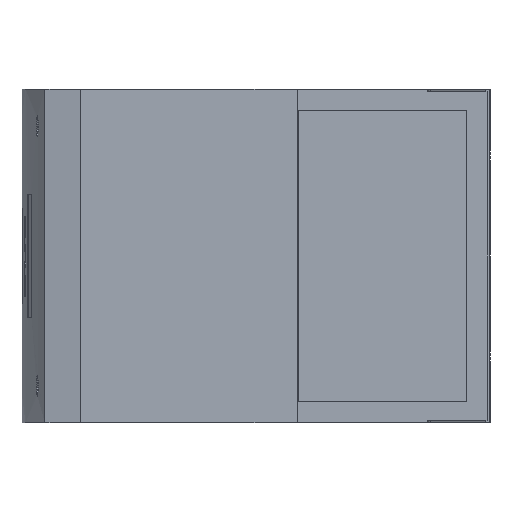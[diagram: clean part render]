
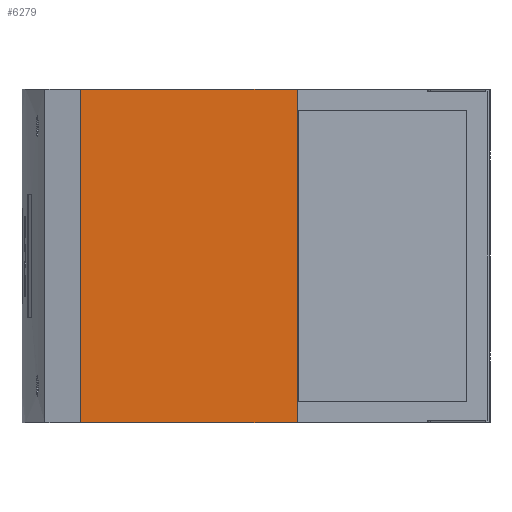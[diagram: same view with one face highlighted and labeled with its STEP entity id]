
A CAD part, left-side view. The second image highlights one B-rep face of the part: STEP entity #6279.
In plain terms, the highlighted planar face has unit normal (-1, 0, 0).
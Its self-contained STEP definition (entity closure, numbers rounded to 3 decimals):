
#557 = DIRECTION ( 'NONE',  ( 0., 0., -1. ) ) ;
#1271 = LINE ( 'NONE', #4851, #4079 ) ;
#1497 = ORIENTED_EDGE ( 'NONE', *, *, #7960, .F. ) ;
#1866 = VERTEX_POINT ( 'NONE', #5172 ) ;
#1870 = ORIENTED_EDGE ( 'NONE', *, *, #5370, .T. ) ;
#2078 = DIRECTION ( 'NONE',  ( 0., 0., -1. ) ) ;
#2294 = DIRECTION ( 'NONE',  ( 0., -1., 0. ) ) ;
#2330 = CARTESIAN_POINT ( 'NONE',  ( -165.513, 0., 0. ) ) ;
#2338 = VECTOR ( 'NONE', #5264, 1000. ) ;
#2488 = CARTESIAN_POINT ( 'NONE',  ( -165.513, 19.888, 0. ) ) ;
#2932 = VERTEX_POINT ( 'NONE', #2488 ) ;
#3278 = VECTOR ( 'NONE', #7580, 1000. ) ;
#3372 = AXIS2_PLACEMENT_3D ( 'NONE', #6284, #6184, #2078 ) ;
#3596 = EDGE_CURVE ( 'NONE', #4078, #6538, #1271, .T. ) ;
#4078 = VERTEX_POINT ( 'NONE', #6896 ) ;
#4079 = VECTOR ( 'NONE', #557, 1000. ) ;
#4557 = PLANE ( 'NONE',  #3372 ) ;
#4851 = CARTESIAN_POINT ( 'NONE',  ( -165.513, 132.856, 174. ) ) ;
#5011 = FACE_OUTER_BOUND ( 'NONE', #5273, .T. ) ;
#5172 = CARTESIAN_POINT ( 'NONE',  ( -165.513, 19.888, 174. ) ) ;
#5264 = DIRECTION ( 'NONE',  ( 0., -1., 0. ) ) ;
#5273 = EDGE_LOOP ( 'NONE', ( #1870, #1497, #10457, #7676 ) ) ;
#5370 = EDGE_CURVE ( 'NONE', #6538, #2932, #8866, .T. ) ;
#5671 = EDGE_CURVE ( 'NONE', #4078, #1866, #6655, .T. ) ;
#6184 = DIRECTION ( 'NONE',  ( 1., 0., 0. ) ) ;
#6279 = ADVANCED_FACE ( 'NONE', ( #5011 ), #4557, .F. ) ;
#6284 = CARTESIAN_POINT ( 'NONE',  ( -165.513, 0., 174. ) ) ;
#6407 = VECTOR ( 'NONE', #2294, 1000. ) ;
#6538 = VERTEX_POINT ( 'NONE', #9299 ) ;
#6655 = LINE ( 'NONE', #10301, #2338 ) ;
#6759 = CARTESIAN_POINT ( 'NONE',  ( -165.513, 19.888, 174. ) ) ;
#6896 = CARTESIAN_POINT ( 'NONE',  ( -165.513, 132.856, 174. ) ) ;
#7580 = DIRECTION ( 'NONE',  ( 0., 0., -1. ) ) ;
#7676 = ORIENTED_EDGE ( 'NONE', *, *, #3596, .T. ) ;
#7960 = EDGE_CURVE ( 'NONE', #1866, #2932, #8514, .T. ) ;
#8514 = LINE ( 'NONE', #6759, #3278 ) ;
#8866 = LINE ( 'NONE', #2330, #6407 ) ;
#9299 = CARTESIAN_POINT ( 'NONE',  ( -165.513, 132.856, 0. ) ) ;
#10301 = CARTESIAN_POINT ( 'NONE',  ( -165.513, 0., 174. ) ) ;
#10457 = ORIENTED_EDGE ( 'NONE', *, *, #5671, .F. ) ;
